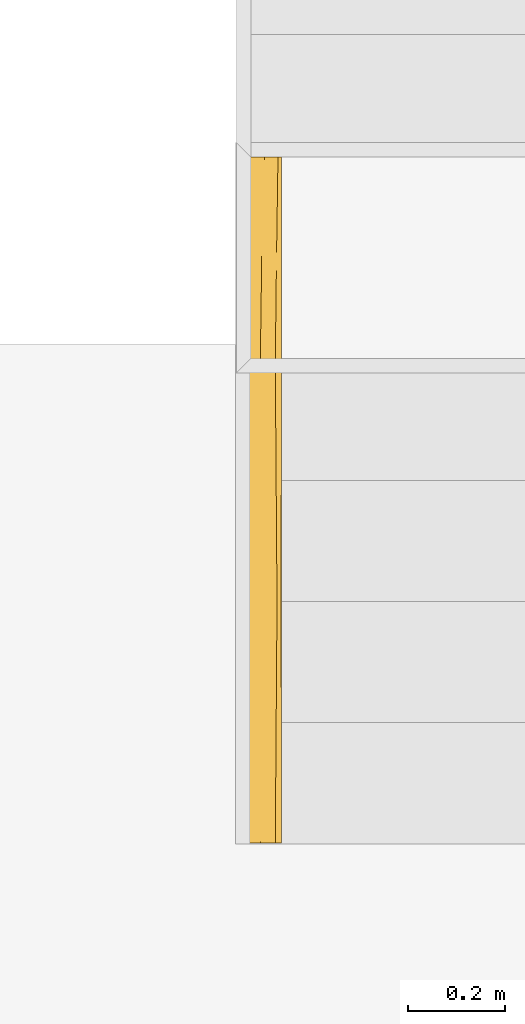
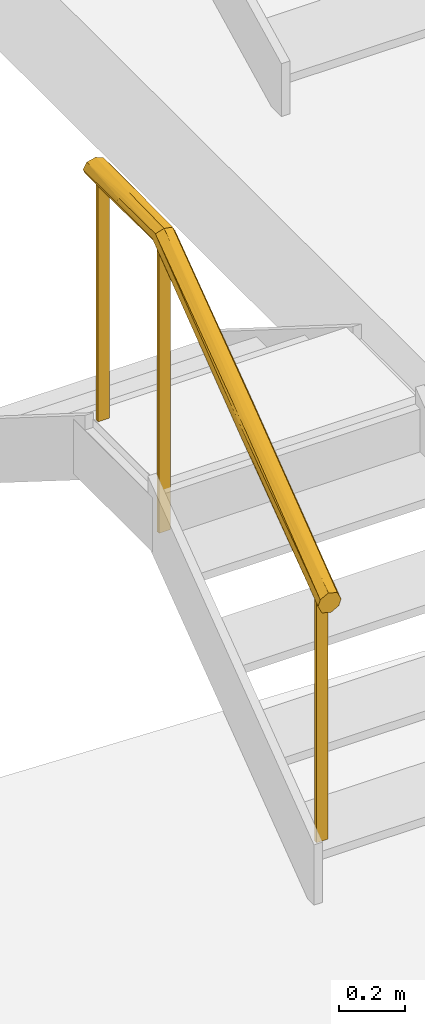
# One storey, part 8 of 15: 1 railing, 1 element without a shape of its own.
"""IFC2X3 building model written with IfcOpenShell, lengths in centimetres."""

from ifc_helpers import new_model, entity, si_unit, converted_unit, derived_unit, direction, frame, origin, place, context, subcontext, project, spatial, faceted_brep, material, material_list, element, aggregate, save


model = new_model("IFC2X3")

# Units and contexts
model_context = context("Model", 3, precision=0.001, world=origin(), true_north=direction((6.12303176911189e-17, 1.0)))
body_context = subcontext(model_context, "Body", "Model", "MODEL_VIEW")
ifc_project = project(units=[si_unit("LENGTHUNIT", "METRE", prefix="CENTI"), si_unit("AREAUNIT", "SQUARE_METRE"), si_unit("VOLUMEUNIT", "CUBIC_METRE"), converted_unit("PLANEANGLEUNIT", "DEGREE", entity("IfcRatioMeasure", 0.0174532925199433), si_unit("PLANEANGLEUNIT", "RADIAN"), dimensions=[0, 0, 0, 0, 0, 0, 0]), si_unit("MASSUNIT", "GRAM", prefix="KILO"), si_unit("TIMEUNIT", "SECOND"), si_unit("FREQUENCYUNIT", "HERTZ"), si_unit("THERMODYNAMICTEMPERATUREUNIT", "DEGREE_CELSIUS"), derived_unit("THERMALTRANSMITTANCEUNIT", [(si_unit("MASSUNIT", "GRAM", prefix="KILO"), 1), (si_unit("THERMODYNAMICTEMPERATUREUNIT", "KELVIN"), -1), (si_unit("TIMEUNIT", "SECOND"), -3)]), derived_unit("VOLUMETRICFLOWRATEUNIT", [(si_unit("LENGTHUNIT", "METRE"), 3), (si_unit("TIMEUNIT", "SECOND"), -1)]), si_unit("ELECTRICCURRENTUNIT", "AMPERE"), si_unit("ELECTRICVOLTAGEUNIT", "VOLT"), si_unit("POWERUNIT", "WATT"), si_unit("FORCEUNIT", "NEWTON", prefix="KILO"), si_unit("ILLUMINANCEUNIT", "LUX"), si_unit("LUMINOUSFLUXUNIT", "LUMEN"), si_unit("LUMINOUSINTENSITYUNIT", "CANDELA"), derived_unit("USERDEFINED", [(si_unit("MASSUNIT", "GRAM", prefix="KILO"), -1), (si_unit("LENGTHUNIT", "METRE"), -2), (si_unit("TIMEUNIT", "SECOND"), 3), (si_unit("LUMINOUSFLUXUNIT", "LUMEN"), 1)]), derived_unit("LINEARVELOCITYUNIT", [(si_unit("LENGTHUNIT", "METRE"), 1), (si_unit("TIMEUNIT", "SECOND"), -1)]), si_unit("PRESSUREUNIT", "PASCAL"), derived_unit("USERDEFINED", [(si_unit("LENGTHUNIT", "METRE"), -2), (si_unit("MASSUNIT", "GRAM", prefix="KILO"), 1), (si_unit("TIMEUNIT", "SECOND"), -2)])], contexts=[model_context])

# Site, building, storey
site_placement = place(None, frame((8.62739174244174, -249.285249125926, 0.0)))
site = spatial("IfcSite", under=ifc_project, at=site_placement, Name="Default", CompositionType="ELEMENT")
building_placement = place(site_placement, origin())
building = spatial("IfcBuilding", under=site, at=building_placement, CompositionType="ELEMENT")
storey_placement = place(building_placement, frame((0.0, 0.0, 801.0)))
storey = spatial("IfcBuildingStorey", under=building, at=storey_placement, Name="Acrotère E3", CompositionType="ELEMENT", Elevation=801.0)

# Stair, railing
stair_placement = place(storey_placement, origin())
stair = element("IfcStair", 1, at=stair_placement, inside=storey, Name="Escalier assemblé:Escalier", ShapeType="NOTDEFINED")
ifc_material_1 = material(Name="Peinture - Grise")
ifc_material_2 = material(Name="Pin (1)")
ifc_material_list = material_list([ifc_material_1, ifc_material_2])
railing_placement = place(stair_placement, frame((2857.35153394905, 3443.18519336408, -20.8571428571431)))
railing = element("IfcRailing", 2, at=railing_placement, material=ifc_material_list, Name="Garde-corps:Type Bateau", ObjectType="Garde-corps:Type Bateau", PredefinedType="NOTDEFINED", context=body_context, shape_type="Brep", body=[
    faceted_brep([(6.15952722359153, 100.395409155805, 161.090542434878), (2.15952722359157, 100.395409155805, 161.090542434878), (2.15952722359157, 99.1954091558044, 161.090542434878), (6.15952722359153, 99.1954091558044, 161.090542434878), (6.15952722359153, 100.395409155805, 56.1428571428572), (6.15952722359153, 99.1954091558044, 56.1428571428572), (2.15952722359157, 99.1954091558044, 56.1428571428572), (2.15952722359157, 100.395409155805, 56.1428571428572)], [[[0, 1, 2, 3]], [[4, 5, 6, 7]], [[3, 5, 4, 0]], [[2, 6, 5, 3]], [[1, 7, 6, 2]], [[0, 4, 7, 1]]]),
    faceted_brep([(6.15952722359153, 137.100000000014, 161.841796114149), (2.15952722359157, 137.100000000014, 161.841796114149), (2.15952722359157, 135.900000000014, 161.841796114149), (6.15952722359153, 135.900000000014, 161.841796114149), (6.15952722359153, 137.100000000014, 74.8571428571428), (6.15952722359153, 135.900000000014, 74.8571428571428), (2.15952722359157, 135.900000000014, 74.8571428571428), (2.15952722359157, 137.100000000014, 74.8571428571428)], [[[0, 1, 2, 3]], [[4, 5, 6, 7]], [[3, 5, 4, 0]], [[2, 6, 5, 3]], [[1, 7, 6, 2]], [[0, 4, 7, 1]]]),
    faceted_brep([(6.15952722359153, 5.60000000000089, 90.1294075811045), (2.15952722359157, 5.60000000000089, 90.1294075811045), (2.15952722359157, 4.40000000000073, 90.1294075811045), (6.15952722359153, 4.40000000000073, 90.1294075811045), (6.15952722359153, 5.60000000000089, 0.0), (6.15952722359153, 4.40000000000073, 0.0), (2.15952722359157, 4.40000000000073, 0.0), (2.15952722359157, 5.60000000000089, 0.0)], [[[0, 1, 2, 3]], [[4, 5, 6, 7]], [[3, 5, 4, 0]], [[2, 6, 5, 3]], [[1, 7, 6, 2]], [[0, 4, 7, 1]]]),
    faceted_brep([(3.741413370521, 0.0, 93.8800521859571), (2.33243630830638, 0.0, 93.1179436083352), (0.923459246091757, 0.0, 92.3558350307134), (0.555596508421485, 0.0, 91.2951576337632), (0.15952722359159, 0.0, 90.1531508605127), (0.821266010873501, 0.0, 88.7607092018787), (1.48300479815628, 0.0, 87.3682675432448), (3.03032293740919, 0.0, 86.8972585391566), (4.5776410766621, 0.0, 86.4262495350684), (5.98661813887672, 0.0, 87.18835811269), (7.39559520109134, 0.0, 87.950466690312), (7.77756121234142, 0.0, 89.0518087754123), (8.1595272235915, 0.0, 90.1531508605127), (7.6448962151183, 0.0, 91.2360459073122), (7.24047293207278, 0.0, 92.0870400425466), (6.83604964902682, 0.0, 92.9380341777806), (5.28873150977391, 0.0, 93.409043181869), (1.48300479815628, 100.537420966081, 162.627708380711), (3.03032293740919, 100.662917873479, 162.250642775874), (2.15844623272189, 50.4893447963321, 124.703247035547), (8.1595272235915, 63.3700523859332, 137.590161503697), (7.76733858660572, 100.096707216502, 163.951868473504), (7.77756121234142, 100.088853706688, 163.975464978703), (8.1595272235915, 99.7954091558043, 164.857142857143), (0.928317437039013, 49.9924038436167, 125.36710091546), (7.71767049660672, 49.9557810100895, 125.836549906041), (0.308326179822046, 46.3340221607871, 123.824867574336), (0.15952722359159, 99.7954091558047, 164.857142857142), (0.669114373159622, 100.081110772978, 163.998729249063), (3.74420928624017, 50.3943391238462, 124.149737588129), (7.3955952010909, 100.382298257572, 163.093787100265), (8.05559303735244, 45.3723103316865, 123.268858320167), (7.04914109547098, 50.3775571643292, 125.27310858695), (5.39127440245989, 50.3166948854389, 124.253460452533), (4.5776410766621, 100.788414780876, 161.873577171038), (5.98661813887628, 100.585356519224, 162.483682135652), (0.159527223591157, 36.4253537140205, 117.420129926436), (6.28498188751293, 48.1658223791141, 123.03409703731), (1.07605958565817, 100.309265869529, 163.313218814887), (0.821266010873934, 100.166415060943, 163.742425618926), (7.19906073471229, 49.6940482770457, 129.788747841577), (7.49778843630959, 99.4244032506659, 165.971860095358), (6.83604964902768, 99.0533973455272, 167.086577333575), (8.01009228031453, 53.2911684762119, 131.060126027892), (0.602032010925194, 49.8390612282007, 129.174501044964), (4.57639665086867, 49.4011431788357, 130.86045885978), (6.24668013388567, 49.3290655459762, 130.276319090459), (5.28873150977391, 98.9279004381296, 167.463642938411), (1.26954504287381, 49.4180250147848, 129.736954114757), (0.923459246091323, 99.2085200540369, 166.62049861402), (3.74141337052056, 98.802403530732, 167.840708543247), (0.263422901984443, 54.4880426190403, 131.789895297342), (2.92538366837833, 49.4790631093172, 130.756366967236), (3.03692483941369, 98.9039326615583, 167.53565606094), (2.33243630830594, 99.0054617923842, 167.230603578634), (2.03317835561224, 47.4258152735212, 128.828847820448), (0.54149323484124, 99.5019646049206, 165.738820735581), (7.72158695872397, 99.5498765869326, 165.594865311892), (1.48300479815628, 141.500000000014, 167.086577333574), (3.03032293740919, 141.500000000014, 167.463642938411), (4.5776410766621, 141.500000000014, 167.840708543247), (5.98661813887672, 141.500000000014, 167.230603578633), (7.39559520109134, 141.500000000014, 166.62049861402), (7.77756121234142, 141.500000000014, 165.738820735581), (8.1595272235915, 141.500000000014, 164.857142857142), (7.71107666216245, 141.500000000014, 164.101715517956), (7.49778843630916, 141.500000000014, 163.742425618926), (6.83604964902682, 141.500000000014, 162.62770838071), (5.28873150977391, 141.500000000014, 162.250642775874), (3.741413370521, 141.500000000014, 161.873577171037), (2.33243630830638, 141.500000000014, 162.483682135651), (0.923459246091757, 141.500000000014, 163.093787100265), (0.541493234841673, 141.500000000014, 163.975464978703), (0.15952722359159, 141.500000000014, 164.857142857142), (0.821266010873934, 141.500000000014, 165.971860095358), (0.56226965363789, 122.251541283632, 163.545234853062), (1.17342541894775, 120.850232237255, 162.861072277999), (2.00445753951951, 119.045300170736, 162.329779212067), (3.00306228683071, 123.878765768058, 161.985260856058), (4.13139633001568, 120.908903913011, 161.857217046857), (6.21364582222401, 124.00651255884, 162.282927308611), (5.20942055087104, 119.265702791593, 161.962325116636), (7.10321721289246, 120.585693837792, 162.825945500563), (7.72846459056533, 119.116757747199, 163.50242483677), (0.15952722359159, 118.607305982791, 164.857142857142), (8.05333444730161, 118.066137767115, 164.170466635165), (8.15952722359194, 122.688101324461, 164.857142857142), (8.15952722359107, 118.607305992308, 164.857142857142), (0.15952722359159, 122.688101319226, 164.857142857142), (7.72355329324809, 122.239404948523, 166.219114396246), (7.08970696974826, 120.805098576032, 166.899298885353), (8.05168291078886, 122.974025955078, 165.549065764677), (6.17426735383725, 116.896701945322, 167.448804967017), (2.53810220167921, 120.20196630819, 167.599619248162), (0.827308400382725, 122.467871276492, 166.516714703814), (1.56480317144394, 117.647093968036, 167.14032407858), (5.15609640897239, 121.634800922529, 167.762543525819), (4.04435279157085, 121.114412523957, 167.855898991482), (0.366690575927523, 121.236719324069, 165.810082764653)], [[[0, 1, 2, 3, 4, 5, 6, 7, 8, 9, 10, 11, 12, 13, 14, 15, 16]], [[17, 18, 19]], [[20, 21, 22, 23]], [[6, 5, 24]], [[25, 11, 10]], [[26, 27, 28]], [[7, 19, 29]], [[29, 19, 18]], [[21, 25, 30]], [[31, 25, 21]], [[10, 9, 32]], [[24, 26, 28]], [[33, 34, 35]], [[25, 32, 30]], [[8, 7, 29]], [[9, 8, 33]], [[10, 32, 25]], [[26, 4, 36, 27]], [[4, 26, 5]], [[31, 11, 25]], [[32, 35, 30]], [[37, 33, 35]], [[31, 20, 12]], [[11, 31, 12]], [[20, 31, 21]], [[8, 29, 33]], [[34, 29, 18]], [[17, 19, 24]], [[6, 19, 7]], [[6, 24, 19]], [[38, 17, 24, 28, 39]], [[37, 9, 33]], [[34, 33, 29]], [[5, 26, 24]], [[37, 32, 9]], [[32, 37, 35]], [[40, 41, 42]], [[43, 12, 20, 23]], [[3, 2, 44]], [[0, 16, 45]], [[42, 46, 40]], [[42, 47, 46]], [[43, 40, 14]], [[3, 36, 4]], [[48, 49, 44]], [[47, 50, 45]], [[44, 2, 48]], [[3, 51, 36]], [[52, 50, 53, 54]], [[43, 14, 13, 12]], [[52, 55, 1]], [[27, 51, 56]], [[54, 55, 52]], [[44, 49, 56]], [[49, 48, 54]], [[48, 2, 1]], [[44, 56, 51]], [[44, 51, 3]], [[36, 51, 27]], [[14, 40, 15]], [[15, 40, 46]], [[43, 41, 40]], [[46, 16, 15]], [[45, 16, 46]], [[46, 47, 45]], [[0, 45, 52]], [[50, 52, 45]], [[0, 52, 1]], [[43, 23, 57, 41]], [[55, 48, 1]], [[48, 55, 54]], [[58, 59, 60, 61, 62, 63, 64, 65, 66, 67, 68, 69, 70, 71, 72, 73, 74]], [[71, 75, 72]], [[76, 77, 17]], [[18, 78, 79]], [[80, 35, 81]], [[79, 68, 81]], [[77, 76, 70]], [[77, 78, 18]], [[67, 66, 82]], [[65, 83, 66]], [[75, 39, 84]], [[66, 83, 82]], [[83, 22, 21, 30]], [[83, 65, 85]], [[80, 82, 35]], [[85, 86, 87, 23]], [[79, 81, 34]], [[65, 64, 86]], [[30, 82, 83]], [[67, 82, 80]], [[82, 30, 35]], [[80, 68, 67]], [[68, 80, 81]], [[69, 68, 79]], [[34, 81, 35]], [[69, 79, 78]], [[79, 34, 18]], [[78, 70, 69]], [[70, 78, 77]], [[71, 70, 76]], [[17, 77, 18]], [[84, 39, 28, 27]], [[76, 17, 38, 39]], [[39, 75, 76]], [[72, 84, 88, 73]], [[22, 83, 85]], [[22, 85, 23]], [[86, 85, 65]], [[76, 75, 71]], [[72, 75, 84]], [[63, 62, 89]], [[90, 62, 61]], [[57, 89, 41]], [[90, 41, 89]], [[89, 57, 91]], [[90, 42, 41]], [[61, 92, 90]], [[92, 47, 42]], [[54, 53, 93]], [[90, 89, 62]], [[94, 49, 95]], [[63, 89, 91]], [[92, 61, 96]], [[57, 23, 87]], [[42, 90, 92]], [[96, 97, 47]], [[50, 47, 97]], [[91, 87, 86, 64]], [[47, 92, 96]], [[95, 54, 93]], [[60, 96, 61]], [[53, 50, 97]], [[97, 96, 60]], [[95, 93, 58]], [[97, 60, 59]], [[59, 58, 93]], [[97, 93, 53]], [[59, 93, 97]], [[95, 49, 54]], [[98, 56, 94]], [[98, 74, 73]], [[58, 94, 95]], [[56, 49, 94]], [[74, 94, 58]], [[94, 74, 98]], [[98, 73, 88, 84, 27]], [[56, 98, 27]], [[63, 91, 64]], [[87, 91, 57]]]),
])
aggregate(stair, [railing])

save(model, "model.ifc")
